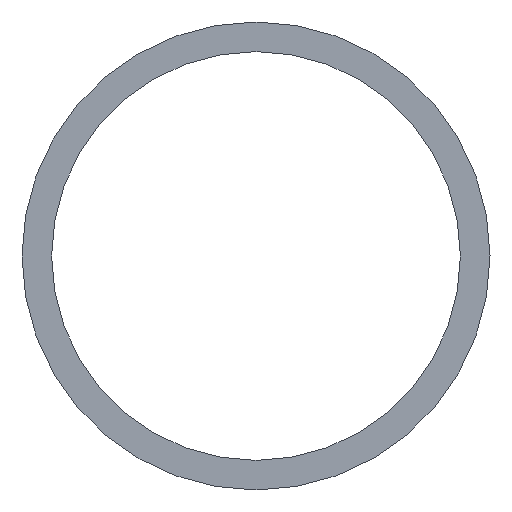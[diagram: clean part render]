
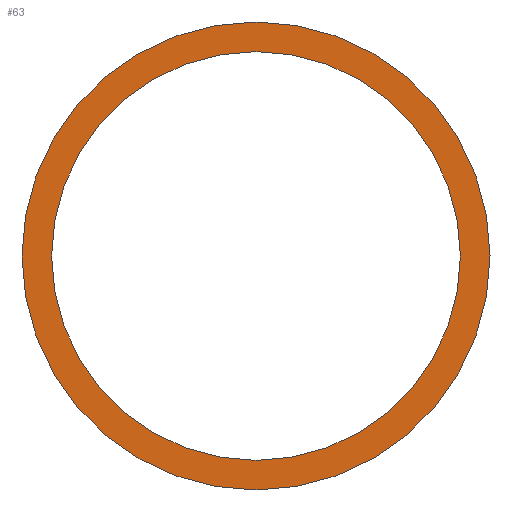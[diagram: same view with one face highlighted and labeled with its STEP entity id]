
A CAD part, left-side view. The second image highlights one B-rep face of the part: STEP entity #63.
In plain terms, the highlighted planar face has unit normal (-1, 0, 0).
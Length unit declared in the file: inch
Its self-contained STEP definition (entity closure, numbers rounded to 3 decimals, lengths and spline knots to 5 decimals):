
#15=FACE_BOUND('',#26,.T.);
#17=PLANE('',#85);
#21=FACE_OUTER_BOUND('',#25,.T.);
#25=EDGE_LOOP('',(#55));
#26=EDGE_LOOP('',(#56));
#33=CIRCLE('',#80,0.655);
#36=CIRCLE('',#84,0.75);
#37=VERTEX_POINT('',#109);
#40=VERTEX_POINT('',#117);
#41=EDGE_CURVE('',#37,#37,#33,.T.);
#46=EDGE_CURVE('',#40,#40,#36,.T.);
#55=ORIENTED_EDGE('',*,*,#46,.T.);
#56=ORIENTED_EDGE('',*,*,#41,.T.);
#63=ADVANCED_FACE('',(#21,#15),#17,.T.);
#80=AXIS2_PLACEMENT_3D('',#110,#91,#92);
#84=AXIS2_PLACEMENT_3D('',#119,#101,#102);
#85=AXIS2_PLACEMENT_3D('',#120,#103,#104);
#91=DIRECTION('center_axis',(1.,0.,0.));
#92=DIRECTION('ref_axis',(0.,0.,-1.));
#101=DIRECTION('center_axis',(-1.,0.,0.));
#102=DIRECTION('ref_axis',(0.,0.,-1.));
#103=DIRECTION('center_axis',(-1.,0.,0.));
#104=DIRECTION('ref_axis',(0.,0.,1.));
#109=CARTESIAN_POINT('',(0.,0.,0.655));
#110=CARTESIAN_POINT('Origin',(0.,0.,0.));
#117=CARTESIAN_POINT('',(0.,0.,0.75));
#119=CARTESIAN_POINT('Origin',(0.,0.,0.));
#120=CARTESIAN_POINT('Origin',(0.,0.,0.));
